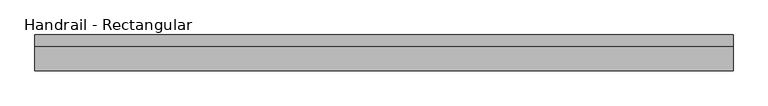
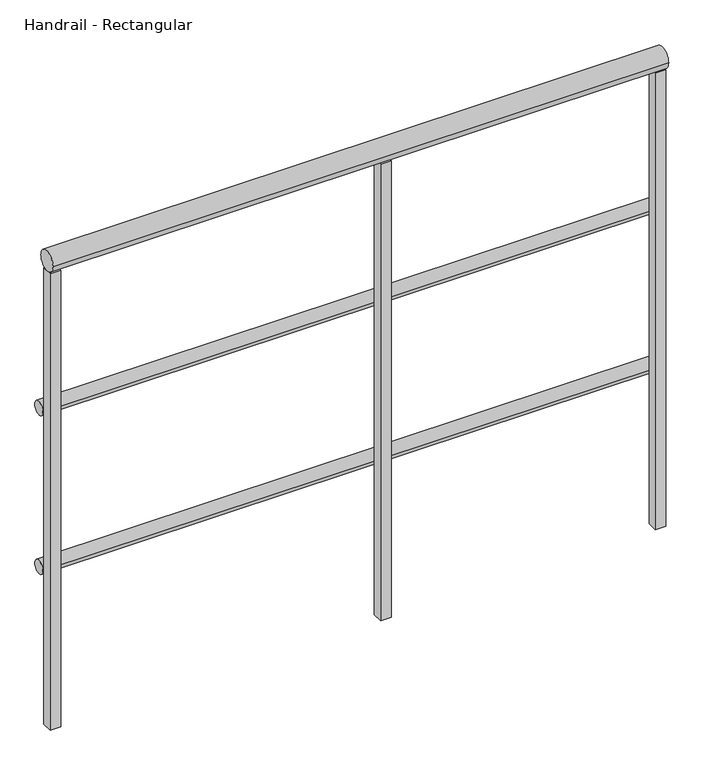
"""IFC4 building model written with IfcOpenShell, lengths in millimetres: railing geometry, Handrail - Rectangular."""

import ifcopenshell
import ifcopenshell.guid

model = None  # the IFC model being written
_history = None  # IfcOwnerHistory: only IFC2X3 demands one
_inside = {}  # id of a spatial element -> (the spatial element, [elements in it])
_under = {}  # id of a project, library or spatial element -> (it, [spatial elements below it])
_declared = {}  # id of a project -> (the project, [libraries it declares])
_typed = {}  # id of a type object -> (the type object, [elements of that type])
_made_of = {}  # id of a material, layer set ... -> (it, [elements and type objects made of it])


def new_model(schema):
    """Start an empty IFC model of exactly this schema.

    Asked for "IFC4X3", IfcOpenShell would pick the latest addendum, in which some entities
    have other attributes; the version numbers below select the first issue.
    IFC2X3 requires an IfcOwnerHistory on every rooted entity: one is made here for all.
    """
    global model, _history
    if schema == "IFC4X3":
        model = ifcopenshell.file(schema_version=(4, 3, 0, 0))
    else:
        model = ifcopenshell.file(schema=schema)
    _inside.clear()
    _under.clear()
    _declared.clear()
    _typed.clear()
    _made_of.clear()
    _history = None
    if model.schema == "IFC2X3":
        org = make("IfcOrganization", Name="unknown")
        user = make(
            "IfcPersonAndOrganization",
            ThePerson=make("IfcPerson", FamilyName="unknown"),
            TheOrganization=org,
        )
        app = make(
            "IfcApplication",
            ApplicationDeveloper=org,
            Version="unknown",
            ApplicationFullName="unknown",
            ApplicationIdentifier="unknown",
        )
        _history = make(
            "IfcOwnerHistory",
            OwningUser=user,
            OwningApplication=app,
            ChangeAction="ADDED",
            CreationDate=0,
        )
    return model


def make(cls, **values):
    """One entity of the class cls with the attributes given. An attribute that is None is left unset."""
    return model.create_entity(
        cls, **{name: value for name, value in values.items() if value is not None}
    )


def rooted(cls, **values):
    """An entity with a GlobalId (a new one), such as an element, a storey or a relation."""
    return make(cls, GlobalId=ifcopenshell.guid.new(), OwnerHistory=_history, **values)


def si_unit(unit_type, name, prefix=None):
    """IfcSIUnit, for example si_unit("LENGTHUNIT", "METRE", prefix="MILLI")."""
    return make("IfcSIUnit", UnitType=unit_type, Prefix=prefix, Name=name)


def assignment(units):
    """IfcUnitAssignment: the units of a project."""
    return None if units is None else make("IfcUnitAssignment", Units=units)


def point(xyz):
    """IfcCartesianPoint."""
    return None if xyz is None else make("IfcCartesianPoint", Coordinates=xyz)


def direction(xyz):
    """IfcDirection."""
    return None if xyz is None else make("IfcDirection", DirectionRatios=xyz)


def frame(location, z_axis=None, x_axis=None):
    """IfcAxis2Placement3D, a coordinate frame: its origin and axes. An axis left out is left unset."""
    return make(
        "IfcAxis2Placement3D",
        Location=point(location),
        Axis=direction(z_axis),
        RefDirection=direction(x_axis),
    )


def frame_2d(location, x_axis=None):
    """IfcAxis2Placement2D, a coordinate frame in the plane: its origin and x axis."""
    return make(
        "IfcAxis2Placement2D", Location=point(location), RefDirection=direction(x_axis)
    )


def origin():
    """The frame at (0, 0, 0) with its axes left unset."""
    return frame((0.0, 0.0, 0.0))


def place(relative_to, where):
    """IfcLocalPlacement: puts the frame where relative to a parent placement (None: the world)."""
    return make(
        "IfcLocalPlacement", PlacementRelTo=relative_to, RelativePlacement=where
    )


def context(
    kind, dimensions, precision=None, world=None, true_north=None, identifier=None
):
    """IfcGeometricRepresentationContext, for example the 3D "Model" context."""
    return make(
        "IfcGeometricRepresentationContext",
        ContextIdentifier=identifier,
        ContextType=kind,
        CoordinateSpaceDimension=dimensions,
        Precision=precision,
        WorldCoordinateSystem=world,
        TrueNorth=true_north,
    )


def project(units=None, contexts=None):
    """IfcProject with its units and contexts."""
    return rooted(
        "IfcProject",
        Name="project",
        RepresentationContexts=contexts,
        UnitsInContext=assignment(units),
    )


def spatial(cls, under=None, at=None, **own):
    """A site, building, storey or space (cls), placed at a placement, below another one or the project."""
    s = rooted(cls, ObjectPlacement=at, **own)
    if under is not None:
        _under.setdefault(under.id(), (under, []))[1].append(s)
    return s


def polyline(points):
    """IfcPolyline through the points."""
    return make("IfcPolyline", Points=[point(p) for p in points])


def circle_curve(where, radius):
    """IfcCircle in the frame where."""
    return make("IfcCircle", Position=where, Radius=radius)


def trimmed(basis, trim1, trim2, sense, master):
    """IfcTrimmedCurve: the piece of a basis curve between two trims."""
    return make(
        "IfcTrimmedCurve",
        BasisCurve=basis,
        Trim1=trim1,
        Trim2=trim2,
        SenseAgreement=sense,
        MasterRepresentation=master,
    )


def segment(curve, same_sense, transition):
    """IfcCompositeCurveSegment."""
    return make(
        "IfcCompositeCurveSegment",
        Transition=transition,
        SameSense=same_sense,
        ParentCurve=curve,
    )


def composite_curve(segments, self_intersect=None):
    """IfcCompositeCurve: segments joined end to end."""
    return make("IfcCompositeCurve", Segments=segments, SelfIntersect=self_intersect)


def outline(outer, holes=None, kind="AREA"):
    """IfcArbitraryClosedProfileDef: a profile drawn as a closed curve; with holes, ...WithVoids."""
    if holes is None:
        return make("IfcArbitraryClosedProfileDef", ProfileType=kind, OuterCurve=outer)
    return make(
        "IfcArbitraryProfileDefWithVoids",
        ProfileType=kind,
        OuterCurve=outer,
        InnerCurves=holes,
    )


def extrude(swept, where, along, depth):
    """IfcExtrudedAreaSolid: the profile swept, set in the frame where, extruded along a direction by depth."""
    return make(
        "IfcExtrudedAreaSolid",
        SweptArea=swept,
        Position=where,
        ExtrudedDirection=direction(along),
        Depth=depth,
    )


def shape(context_of_items, identifier, shape_type, items):
    """IfcShapeRepresentation: the items that make up one representation, for example the "Body"."""
    return make(
        "IfcShapeRepresentation",
        ContextOfItems=context_of_items,
        RepresentationIdentifier=identifier,
        RepresentationType=shape_type,
        Items=items,
    )


def source(mapping_origin, context_of_items, identifier, shape_type, items):
    """IfcRepresentationMap: a shape defined once, which mapped items show again and again."""
    return make(
        "IfcRepresentationMap",
        MappingOrigin=mapping_origin,
        MappedRepresentation=shape(context_of_items, identifier, shape_type, items),
    )


def transform(
    local_origin,
    x_axis=None,
    y_axis=None,
    z_axis=None,
    scale=None,
    scale2=None,
    scale3=None,
    uniform=True,
):
    """IfcCartesianTransformationOperator3D, or its non-uniform kind. x_axis, y_axis, z_axis: its Axis1, 2, 3."""
    if uniform:
        return make(
            "IfcCartesianTransformationOperator3D",
            Axis1=direction(x_axis),
            Axis2=direction(y_axis),
            LocalOrigin=point(local_origin),
            Scale=scale,
            Axis3=direction(z_axis),
        )
    return make(
        "IfcCartesianTransformationOperator3DnonUniform",
        Axis1=direction(x_axis),
        Axis2=direction(y_axis),
        LocalOrigin=point(local_origin),
        Scale=scale,
        Axis3=direction(z_axis),
        Scale2=scale2,
        Scale3=scale3,
    )


def mapped(mapping_source, mapping_target):
    """IfcMappedItem: shows the shape of a source again, moved by a transform."""
    return make(
        "IfcMappedItem", MappingSource=mapping_source, MappingTarget=mapping_target
    )


def made_of(thing, what):
    """Note that an element or type object is made of a material, layer set ...; save() writes the relation."""
    if what is not None:
        _made_of.setdefault(what.id(), (what, []))[1].append(thing)
    return thing


def element(
    cls,
    number,
    at=None,
    inside=None,
    cuts=None,
    type_object=None,
    material=None,
    context=None,
    identifier="Body",
    shape_type=None,
    held_by="IfcProductDefinitionShape",
    body=None,
    shapes=None,
    **own,
):
    """One element of the class cls, such as IfcWall. Its Tag is "e" and its number.

    at: its placement. inside: the storey or other place that contains it. cuts: it is an
    opening in that element (IfcRelVoidsElement). A single representation is given by context,
    identifier, shape_type and body (its items); several are given by shapes. held_by: the class
    of the entity that holds the representations. save() writes the other relations.
    """
    e = rooted(cls, Tag="e%d" % number, ObjectPlacement=at, **own)
    if body is not None:
        shapes = [shape(context, identifier, shape_type, body)]
    if shapes is not None:
        e.Representation = make(held_by, Representations=shapes)
    if inside is not None:
        _inside.setdefault(inside.id(), (inside, []))[1].append(e)
    if cuts is not None:
        rooted(
            "IfcRelVoidsElement", RelatingBuildingElement=cuts, RelatedOpeningElement=e
        )
    if type_object is not None:
        _typed.setdefault(type_object.id(), (type_object, []))[1].append(e)
    return made_of(e, material)


def aggregate(whole, parts):
    """IfcRelAggregates: a whole, such as a stair, and the parts it consists of."""
    return rooted("IfcRelAggregates", RelatingObject=whole, RelatedObjects=parts)


def save(model, path):
    """Write the relations noted so far, then the file.

    IfcRelAggregates (storeys below a building ...), IfcRelContainedInSpatialStructure (elements
    in a storey), IfcRelDefinesByType, IfcRelAssociatesMaterial and IfcRelDeclares: one each for
    every whole, place, type object, material and project.
    """
    for whole, parts in _under.values():
        aggregate(whole, parts)
    for where, things in _inside.values():
        rooted(
            "IfcRelContainedInSpatialStructure",
            RelatedElements=things,
            RelatingStructure=where,
        )
    for kind, things in _typed.values():
        rooted("IfcRelDefinesByType", RelatedObjects=things, RelatingType=kind)
    for what, things in _made_of.values():
        rooted("IfcRelAssociatesMaterial", RelatedObjects=things, RelatingMaterial=what)
    for by, libraries in _declared.values():
        rooted("IfcRelDeclares", RelatingContext=by, RelatedDefinitions=libraries)
    model.write(path)


def handrail_rectangular_4e911a37(model_context):
    return source(origin(), model_context, "Body", "SweptSolid", [
        extrude(outline(composite_curve([segment(trimmed(circle_curve(frame_2d((-27958.5683133, 9740.9)), 12.7), [point((-27945.8683133, 9740.9))], [point((-27971.2683133, 9740.9))], False, "CARTESIAN"), True, "CONTINUOUS"), segment(trimmed(circle_curve(frame_2d((-27958.5683133, 9740.9)), 12.7), [point((-27971.2683133, 9740.9))], [point((-27945.8683133, 9740.9))], False, "CARTESIAN"), True, "CONTINUOUS")], self_intersect=False)), frame((-31964.2839563, 0.0, 0.0), z_axis=(1.0, 0.0, 0.0), x_axis=(0.0, 1.0, 0.0)), (0.0, 0.0, 1.0), 1117.6),
        extrude(outline(composite_curve([segment(trimmed(circle_curve(frame_2d((-27958.5683133, 9436.1)), 12.7), [point((-27945.8683133, 9436.1))], [point((-27971.2683133, 9436.1))], False, "CARTESIAN"), True, "CONTINUOUS"), segment(trimmed(circle_curve(frame_2d((-27958.5683133, 9436.1)), 12.7), [point((-27971.2683133, 9436.1))], [point((-27945.8683133, 9436.1))], False, "CARTESIAN"), True, "CONTINUOUS")], self_intersect=False)), frame((-31964.2839563, 0.0, 0.0), z_axis=(1.0, 0.0, 0.0), x_axis=(0.0, 1.0, 0.0)), (0.0, 0.0, 1.0), 1117.6),
        extrude(outline(composite_curve([segment(trimmed(circle_curve(frame_2d((-27983.9683133, 10039.35)), 19.05), [point((-27964.9183133, 10039.35))], [point((-28003.0183133, 10039.35))], False, "CARTESIAN"), True, "CONTINUOUS"), segment(trimmed(circle_curve(frame_2d((-27983.9683133, 10039.35)), 19.05), [point((-28003.0183133, 10039.35))], [point((-27964.9183133, 10039.35))], False, "CARTESIAN"), True, "CONTINUOUS")], self_intersect=False)), frame((-31964.2839563, 0.0, 0.0), z_axis=(1.0, 0.0, 0.0), x_axis=(0.0, 1.0, 0.0)), (0.0, 0.0, 1.0), 1117.6),
        extrude(outline(polyline([(-31364.2089563, -27993.4933133), (-31364.2089563, -27974.4433133), (-31345.1589563, -27974.4433133), (-31345.1589563, -27993.4933133), (-31364.2089563, -27993.4933133)])), frame((0.0, 0.0, 9144.0), z_axis=(0.0, 0.0, 1.0), x_axis=(1.0, 0.0, 0.0)), (0.0, 0.0, 1.0), 876.3),
        extrude(outline(polyline([(-30865.7339563, -27993.4933133), (-30865.7339563, -27974.4433133), (-30846.6839563, -27974.4433133), (-30846.6839563, -27993.4933133), (-30865.7339563, -27993.4933133)])), frame((0.0, 0.0, 9144.0), z_axis=(0.0, 0.0, 1.0), x_axis=(1.0, 0.0, 0.0)), (0.0, 0.0, 1.0), 876.3),
        extrude(outline(polyline([(-31964.2839563, -27993.4933133), (-31964.2839563, -27974.4433133), (-31945.2339563, -27974.4433133), (-31945.2339563, -27993.4933133), (-31964.2839563, -27993.4933133)])), frame((0.0, 0.0, 9144.0), z_axis=(0.0, 0.0, 1.0), x_axis=(1.0, 0.0, 0.0)), (0.0, 0.0, 1.0), 876.3),
    ])


if __name__ == "__main__":
    model = new_model("IFC4")
    model_context = context("Model", 3, world=origin())
    ifc_project = project(units=[si_unit("LENGTHUNIT", "METRE", prefix="MILLI")], contexts=[model_context])
    site = spatial("IfcSite", under=ifc_project)
    building = spatial("IfcBuilding", under=site)
    placement = place(None, origin())
    handrail_rectangular_shape = handrail_rectangular_4e911a37(model_context)
    element("IfcRailing", 1, ObjectType="Handrail - Rectangular", at=placement, inside=building, context=model_context, shape_type="MappedRepresentation", body=[
        mapped(handrail_rectangular_shape, transform((0.0, 0.0, 0.0), x_axis=(1.0, 0.0, 0.0), y_axis=(0.0, 1.0, 0.0), z_axis=(0.0, 0.0, 1.0))),
    ])
    save(model, "model.ifc")
